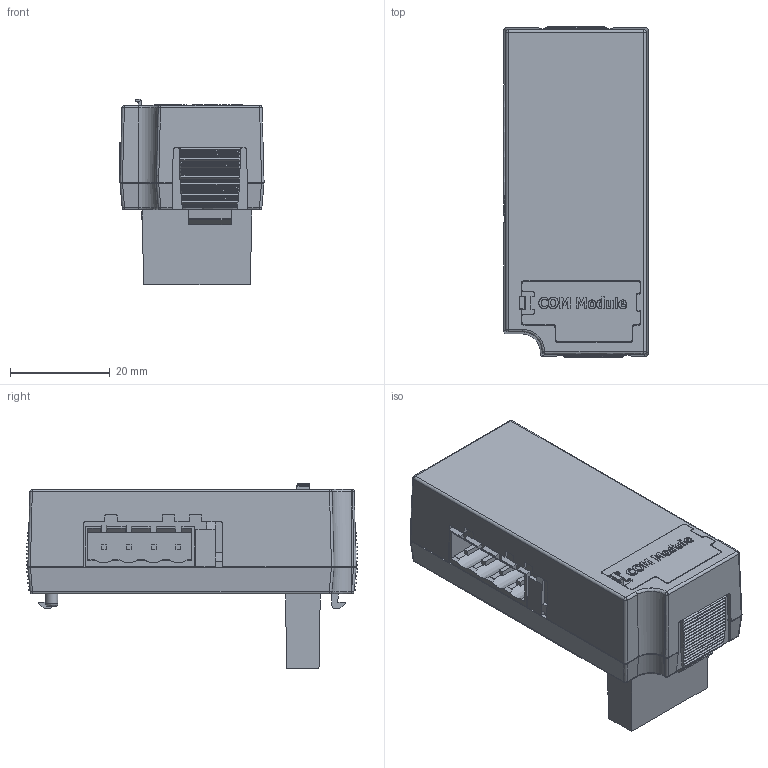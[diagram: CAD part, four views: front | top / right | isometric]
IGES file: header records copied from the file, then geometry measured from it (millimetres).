
Start section: SolidWorks IGES file using analytic representation for surfaces
Global section: file name: H:\UniStream\UniPitzi\3d shared files_4.3 and 5 inch\COM - RS485 Module\CAD FILES\3D\UAC-CX-01RS4.IGS; native system: SolidWorks 2015; preprocessor: SolidWorks 2015; author: laorb; date: 180123.135945; units: millimetre
Bounding box: 28.96 x 66.55 x 37.21 mm (x, y, z)
Surface area: 10251.3 mm2 (no closed solid volume)
Topology: 0 solids, 0 shells, 1035 faces, 6997 edges, 6990 vertices
Faces by surface type: bspline 916, revolution 119
